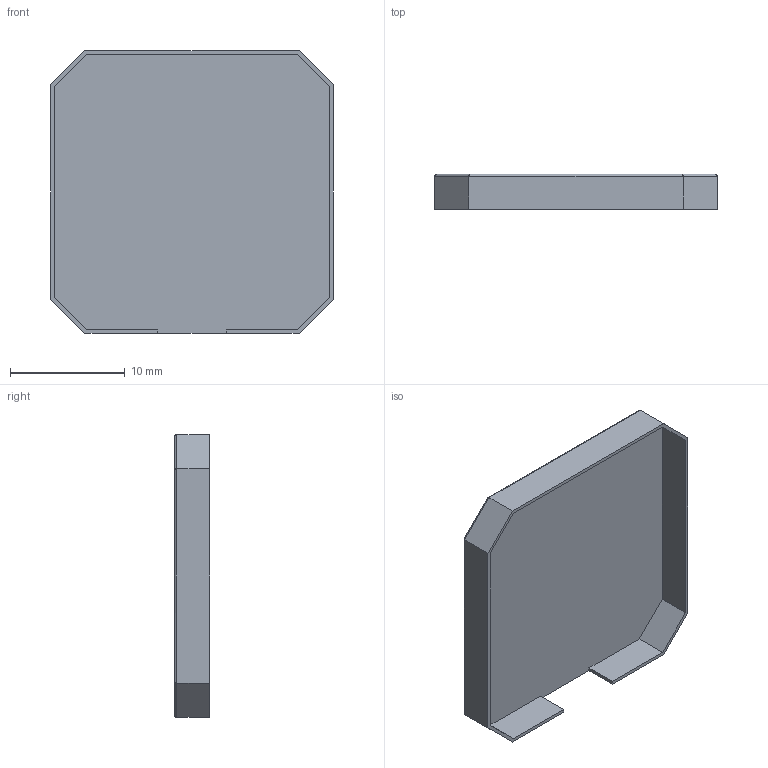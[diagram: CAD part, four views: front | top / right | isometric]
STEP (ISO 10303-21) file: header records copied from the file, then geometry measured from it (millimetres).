
FILE_DESCRIPTION(('HOOPS Exchange Step'),'2;1');
FILE_NAME('/tmp/f55a985119a7cd72ca33d886f23c807c20220321-1-1bg6352.SLDPRT.step','2022-03-21T15:26:52+00:00',('root'),('Unknown organisation'),'HOOPS Exchange 2021.0','HOOPS Exchange','Unknown authorisation');
FILE_SCHEMA( ('AUTOMOTIVE_DESIGN { 1 0 10303 214 1 1 1 1 }') );
Length unit declared in the file: millimetre
Products named in the file (2): Défaut; f55a985119a7cd72ca33d886f23c807c20220321-1-1bg6352
Assembly tree (1 placements, depth 2):
  f55a985119a7cd72ca33d886f23c807c20220321-1-1bg6352
    Défaut
Bounding box: 24.7 x 3.08 x 24.7 mm (x, y, z)
Volume: 190.9 mm3; surface area: 1684.7 mm2
Topology: 1 solids, 1 shells, 31 faces, 77 edges, 48 vertices
Faces by surface type: plane 23, cylinder 8
Entity records: 946 total; most frequent: CARTESIAN_POINT 159, ORIENTED_EDGE 154, DIRECTION 153, EDGE_CURVE 77, VECTOR 69, LINE 69, VERTEX_POINT 48, AXIS2_PLACEMENT_3D 42
